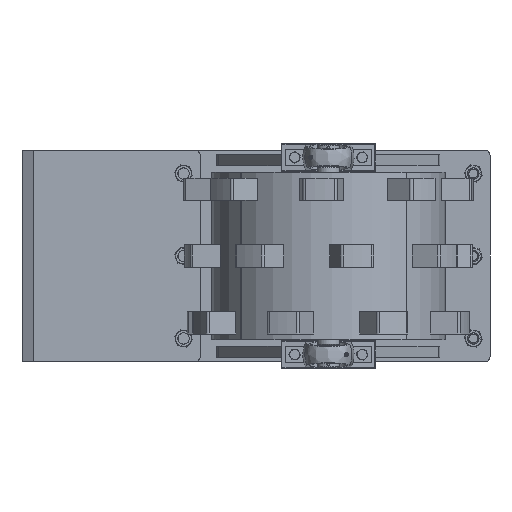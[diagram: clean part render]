
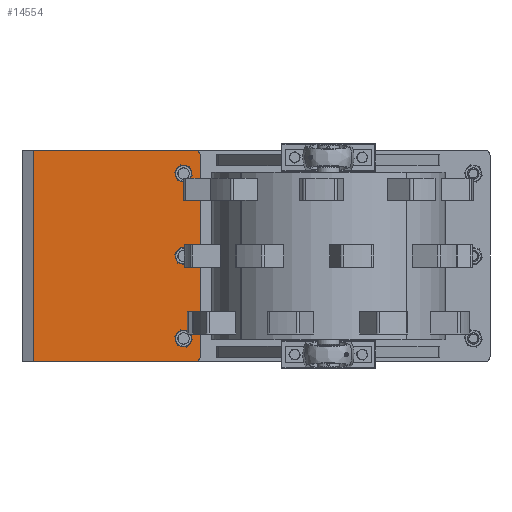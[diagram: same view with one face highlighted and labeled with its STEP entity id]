
A CAD part, front view. The second image highlights one B-rep face of the part: STEP entity #14554.
In plain terms, the highlighted planar face has unit normal (0, -1, 0) as drawn and (0, 0, 1) by its records, which use the part's own axes.
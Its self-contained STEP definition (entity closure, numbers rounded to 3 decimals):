
#131 = EDGE_CURVE ( 'NONE', #19802, #20535, #23594, .T. ) ;
#726 = ORIENTED_EDGE ( 'NONE', *, *, #11818, .T. ) ;
#848 = CARTESIAN_POINT ( 'NONE',  ( -148., -130., 16. ) ) ;
#1156 = AXIS2_PLACEMENT_3D ( 'NONE', #14103, #15990, #8563 ) ;
#1436 = EDGE_CURVE ( 'NONE', #22192, #9686, #14499, .T. ) ;
#1524 = EDGE_CURVE ( 'NONE', #3251, #19802, #20116, .T. ) ;
#1592 = CARTESIAN_POINT ( 'NONE',  ( 190., 140., 16. ) ) ;
#1808 = CARTESIAN_POINT ( 'NONE',  ( -180., -150., 16. ) ) ;
#2239 = EDGE_CURVE ( 'NONE', #6716, #12480, #8846, .T. ) ;
#2281 = ORIENTED_EDGE ( 'NONE', *, *, #131, .T. ) ;
#2456 = CIRCLE ( 'NONE', #15037, 11. ) ;
#2493 = CARTESIAN_POINT ( 'NONE',  ( 180., -160., 16. ) ) ;
#2550 = LINE ( 'NONE', #5070, #22871 ) ;
#2887 = AXIS2_PLACEMENT_3D ( 'NONE', #6523, #4548, #23298 ) ;
#3249 = DIRECTION ( 'NONE',  ( -1., 0., 0. ) ) ;
#3251 = VERTEX_POINT ( 'NONE', #18533 ) ;
#3323 = CIRCLE ( 'NONE', #12551, 11. ) ;
#3333 = DIRECTION ( 'NONE',  ( 0., 0., 1. ) ) ;
#3463 = CARTESIAN_POINT ( 'NONE',  ( -190., -150., 16. ) ) ;
#3802 = DIRECTION ( 'NONE',  ( 1., 0., 0. ) ) ;
#4525 = ORIENTED_EDGE ( 'NONE', *, *, #1436, .F. ) ;
#4548 = DIRECTION ( 'NONE',  ( 0., 0., 1. ) ) ;
#5070 = CARTESIAN_POINT ( 'NONE',  ( -190., 140., 16. ) ) ;
#5244 = DIRECTION ( 'NONE',  ( 0., -1., 0. ) ) ;
#5809 = CARTESIAN_POINT ( 'NONE',  ( -190., 160., 16. ) ) ;
#5874 = CARTESIAN_POINT ( 'NONE',  ( -159., -130., 16. ) ) ;
#5960 = VECTOR ( 'NONE', #18228, 1000. ) ;
#6304 = CARTESIAN_POINT ( 'NONE',  ( 11., -130., 16. ) ) ;
#6365 = VERTEX_POINT ( 'NONE', #21944 ) ;
#6457 = EDGE_CURVE ( 'NONE', #22609, #6365, #2550, .T. ) ;
#6523 = CARTESIAN_POINT ( 'NONE',  ( 180., -150., 16. ) ) ;
#6716 = VERTEX_POINT ( 'NONE', #15419 ) ;
#6717 = ORIENTED_EDGE ( 'NONE', *, *, #12087, .F. ) ;
#6858 = DIRECTION ( 'NONE',  ( 1., 0., 0. ) ) ;
#7069 = DIRECTION ( 'NONE',  ( 0., 0., 1. ) ) ;
#7282 = CARTESIAN_POINT ( 'NONE',  ( -11., -130., 16. ) ) ;
#7399 = DIRECTION ( 'NONE',  ( 1., 0., 0. ) ) ;
#7530 = DIRECTION ( 'NONE',  ( 1., 0., 0. ) ) ;
#7571 = CARTESIAN_POINT ( 'NONE',  ( 190., 160., 16. ) ) ;
#8111 = FACE_BOUND ( 'NONE', #24013, .T. ) ;
#8169 = ORIENTED_EDGE ( 'NONE', *, *, #1524, .T. ) ;
#8563 = DIRECTION ( 'NONE',  ( 1., 0., 0. ) ) ;
#8730 = CARTESIAN_POINT ( 'NONE',  ( -190., -160., 16. ) ) ;
#8846 = CIRCLE ( 'NONE', #14867, 11. ) ;
#9325 = AXIS2_PLACEMENT_3D ( 'NONE', #24118, #16622, #3802 ) ;
#9594 = ORIENTED_EDGE ( 'NONE', *, *, #11712, .F. ) ;
#9686 = VERTEX_POINT ( 'NONE', #7282 ) ;
#9930 = DIRECTION ( 'NONE',  ( 0., 0., 1. ) ) ;
#10290 = CIRCLE ( 'NONE', #9325, 11. ) ;
#11089 = ORIENTED_EDGE ( 'NONE', *, *, #16786, .F. ) ;
#11656 = FACE_BOUND ( 'NONE', #22607, .T. ) ;
#11712 = EDGE_CURVE ( 'NONE', #9686, #22192, #10290, .T. ) ;
#11818 = EDGE_CURVE ( 'NONE', #18503, #3251, #20876, .T. ) ;
#12087 = EDGE_CURVE ( 'NONE', #21417, #17916, #19708, .T. ) ;
#12480 = VERTEX_POINT ( 'NONE', #5874 ) ;
#12551 = AXIS2_PLACEMENT_3D ( 'NONE', #21215, #9930, #13874 ) ;
#13121 = FACE_OUTER_BOUND ( 'NONE', #13363, .T. ) ;
#13188 = CARTESIAN_POINT ( 'NONE',  ( 190., -150., 16. ) ) ;
#13363 = EDGE_LOOP ( 'NONE', ( #23761, #726, #8169, #2281, #13937, #20263 ) ) ;
#13874 = DIRECTION ( 'NONE',  ( 1., 0., 0. ) ) ;
#13937 = ORIENTED_EDGE ( 'NONE', *, *, #18629, .T. ) ;
#14103 = CARTESIAN_POINT ( 'NONE',  ( 0., -130., 16. ) ) ;
#14200 = VECTOR ( 'NONE', #20412, 1000. ) ;
#14476 = EDGE_CURVE ( 'NONE', #6365, #18503, #23718, .T. ) ;
#14499 = CIRCLE ( 'NONE', #1156, 11. ) ;
#14554 = ADVANCED_FACE ( 'NONE', ( #11656, #13121, #19320, #8111 ), #18987, .T. ) ;
#14807 = DIRECTION ( 'NONE',  ( 0., 0., 1. ) ) ;
#14867 = AXIS2_PLACEMENT_3D ( 'NONE', #18028, #7069, #20246 ) ;
#15037 = AXIS2_PLACEMENT_3D ( 'NONE', #848, #21829, #23635 ) ;
#15419 = CARTESIAN_POINT ( 'NONE',  ( -137., -130., 16. ) ) ;
#15502 = EDGE_LOOP ( 'NONE', ( #9594, #4525 ) ) ;
#15954 = AXIS2_PLACEMENT_3D ( 'NONE', #1808, #14807, #7399 ) ;
#15990 = DIRECTION ( 'NONE',  ( 0., 0., 1. ) ) ;
#16262 = AXIS2_PLACEMENT_3D ( 'NONE', #16901, #3333, #7530 ) ;
#16622 = DIRECTION ( 'NONE',  ( 0., 0., 1. ) ) ;
#16641 = AXIS2_PLACEMENT_3D ( 'NONE', #18061, #22012, #6858 ) ;
#16786 = EDGE_CURVE ( 'NONE', #12480, #6716, #2456, .T. ) ;
#16901 = CARTESIAN_POINT ( 'NONE',  ( 0., 0., 16. ) ) ;
#16971 = ORIENTED_EDGE ( 'NONE', *, *, #18382, .F. ) ;
#17916 = VERTEX_POINT ( 'NONE', #21709 ) ;
#18028 = CARTESIAN_POINT ( 'NONE',  ( -148., -130., 16. ) ) ;
#18061 = CARTESIAN_POINT ( 'NONE',  ( 148., -130., 16. ) ) ;
#18228 = DIRECTION ( 'NONE',  ( 1., 0., 0. ) ) ;
#18382 = EDGE_CURVE ( 'NONE', #17916, #21417, #3323, .T. ) ;
#18503 = VERTEX_POINT ( 'NONE', #3463 ) ;
#18533 = CARTESIAN_POINT ( 'NONE',  ( -180., -160., 16. ) ) ;
#18629 = EDGE_CURVE ( 'NONE', #20535, #22609, #23353, .T. ) ;
#18726 = VECTOR ( 'NONE', #5244, 1000. ) ;
#18987 = PLANE ( 'NONE',  #16262 ) ;
#19320 = FACE_BOUND ( 'NONE', #15502, .T. ) ;
#19708 = CIRCLE ( 'NONE', #16641, 11. ) ;
#19802 = VERTEX_POINT ( 'NONE', #2493 ) ;
#20116 = LINE ( 'NONE', #8730, #5960 ) ;
#20246 = DIRECTION ( 'NONE',  ( 1., 0., 0. ) ) ;
#20263 = ORIENTED_EDGE ( 'NONE', *, *, #6457, .T. ) ;
#20412 = DIRECTION ( 'NONE',  ( 0., 1., 0. ) ) ;
#20535 = VERTEX_POINT ( 'NONE', #13188 ) ;
#20876 = CIRCLE ( 'NONE', #15954, 10. ) ;
#21185 = ORIENTED_EDGE ( 'NONE', *, *, #2239, .F. ) ;
#21215 = CARTESIAN_POINT ( 'NONE',  ( 148., -130., 16. ) ) ;
#21417 = VERTEX_POINT ( 'NONE', #22778 ) ;
#21709 = CARTESIAN_POINT ( 'NONE',  ( 137., -130., 16. ) ) ;
#21829 = DIRECTION ( 'NONE',  ( 0., 0., 1. ) ) ;
#21944 = CARTESIAN_POINT ( 'NONE',  ( -190., 140., 16. ) ) ;
#22012 = DIRECTION ( 'NONE',  ( 0., 0., 1. ) ) ;
#22192 = VERTEX_POINT ( 'NONE', #6304 ) ;
#22607 = EDGE_LOOP ( 'NONE', ( #16971, #6717 ) ) ;
#22609 = VERTEX_POINT ( 'NONE', #1592 ) ;
#22778 = CARTESIAN_POINT ( 'NONE',  ( 159., -130., 16. ) ) ;
#22871 = VECTOR ( 'NONE', #3249, 1000. ) ;
#23298 = DIRECTION ( 'NONE',  ( 1., 0., 0. ) ) ;
#23353 = LINE ( 'NONE', #7571, #14200 ) ;
#23594 = CIRCLE ( 'NONE', #2887, 10. ) ;
#23635 = DIRECTION ( 'NONE',  ( 1., 0., 0. ) ) ;
#23718 = LINE ( 'NONE', #5809, #18726 ) ;
#23761 = ORIENTED_EDGE ( 'NONE', *, *, #14476, .T. ) ;
#24013 = EDGE_LOOP ( 'NONE', ( #11089, #21185 ) ) ;
#24118 = CARTESIAN_POINT ( 'NONE',  ( 0., -130., 16. ) ) ;
